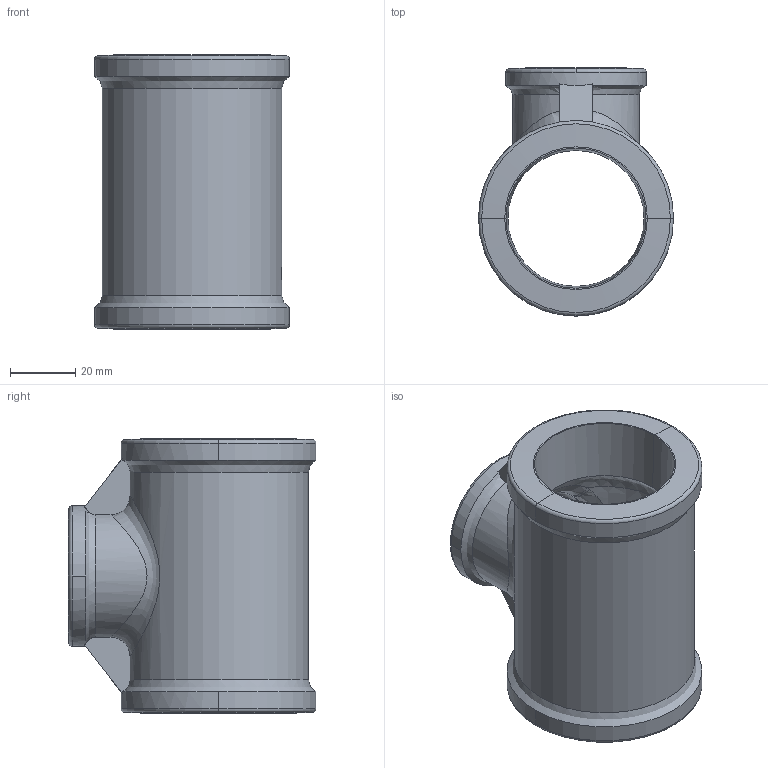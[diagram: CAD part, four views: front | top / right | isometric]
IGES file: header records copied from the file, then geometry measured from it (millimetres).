
Global section: file name: No Iges File Name specified; native system: AutoDesk Inventor R12.0; preprocessor: AutoDesk Inventor Iges Exporter R12.0; date: 20090916.123438; units: millimetre
Bounding box: 59.6 x 75.8 x 84 mm (x, y, z)
Volume: 84791.9 mm3; surface area: 33541.6 mm2
Topology: 1 solids, 1 shells, 81 faces, 219 edges, 142 vertices
Faces by surface type: bspline 29, plane 19, cylinder 12, revolution 9, torus 6, cone 6
